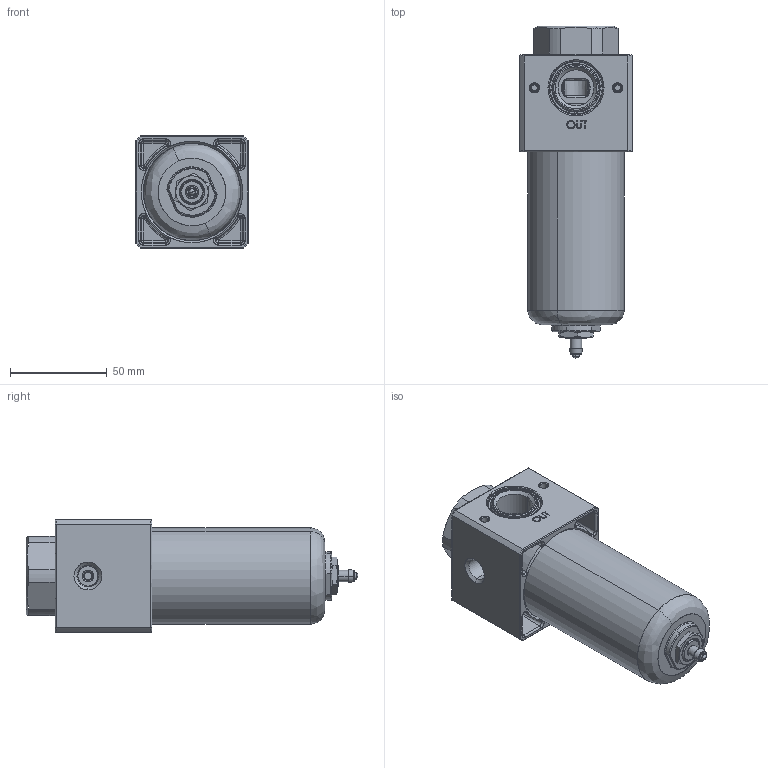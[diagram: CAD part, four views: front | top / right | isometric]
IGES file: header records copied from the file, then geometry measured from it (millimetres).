
Start section: SolidWorks IGES file using analytic representation for surfaces
Bounding box: 58 x 171.62 x 58 mm (x, y, z)
Surface area: 78610.3 mm2 (no closed solid volume)
Topology: 0 solids, 0 shells, 647 faces, 8919 edges, 8912 vertices
Faces by surface type: bspline 342, revolution 305
